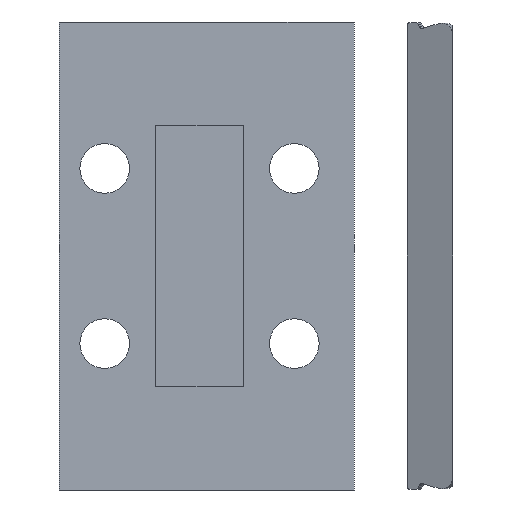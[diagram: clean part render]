
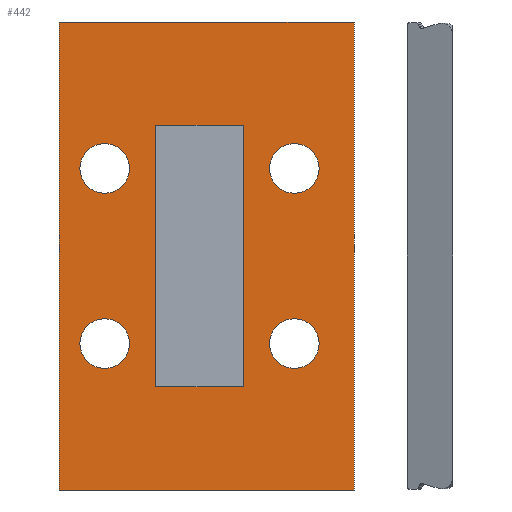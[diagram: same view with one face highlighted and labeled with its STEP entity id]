
A CAD part, front view. The second image highlights one B-rep face of the part: STEP entity #442.
In plain terms, the highlighted planar face has unit normal (0, -1, 0).
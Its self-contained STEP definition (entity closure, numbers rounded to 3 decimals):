
#32 = VERTEX_POINT ( 'NONE', #583 ) ;
#34 = EDGE_CURVE ( 'NONE', #35, #43, #578, .T. ) ;
#35 = VERTEX_POINT ( 'NONE', #573 ) ;
#39 = VERTEX_POINT ( 'NONE', #626 ) ;
#43 = VERTEX_POINT ( 'NONE', #624 ) ;
#47 = VERTEX_POINT ( 'NONE', #619 ) ;
#56 = VERTEX_POINT ( 'NONE', #609 ) ;
#58 = EDGE_CURVE ( 'NONE', #39, #32, #608, .T. ) ;
#60 = EDGE_CURVE ( 'NONE', #47, #56, #603, .T. ) ;
#66 = VERTEX_POINT ( 'NONE', #647 ) ;
#211 = VERTEX_POINT ( 'NONE', #824 ) ;
#213 = VERTEX_POINT ( 'NONE', #884 ) ;
#216 = EDGE_CURVE ( 'NONE', #211, #213, #874, .T. ) ;
#219 = EDGE_CURVE ( 'NONE', #222, #226, #865, .T. ) ;
#222 = VERTEX_POINT ( 'NONE', #855 ) ;
#226 = VERTEX_POINT ( 'NONE', #909 ) ;
#414 = EDGE_CURVE ( 'NONE', #438, #439, #1235, .T. ) ;
#418 = EDGE_CURVE ( 'NONE', #47, #39, #1223, .T. ) ;
#419 = EDGE_CURVE ( 'NONE', #488, #439, #1219, .T. ) ;
#420 = EDGE_CURVE ( 'NONE', #226, #222, #1214, .T. ) ;
#421 = ORIENTED_EDGE ( 'NONE', *, *, #219, .T. ) ;
#422 = EDGE_LOOP ( 'NONE', ( #433, #429 ) ) ;
#423 = EDGE_LOOP ( 'NONE', ( #428, #421 ) ) ;
#424 = ORIENTED_EDGE ( 'NONE', *, *, #498, .T. ) ;
#425 = ORIENTED_EDGE ( 'NONE', *, *, #216, .T. ) ;
#426 = EDGE_CURVE ( 'NONE', #43, #35, #1274, .T. ) ;
#427 = ORIENTED_EDGE ( 'NONE', *, *, #435, .F. ) ;
#428 = ORIENTED_EDGE ( 'NONE', *, *, #420, .T. ) ;
#429 = ORIENTED_EDGE ( 'NONE', *, *, #34, .T. ) ;
#430 = ORIENTED_EDGE ( 'NONE', *, *, #485, .F. ) ;
#431 = ORIENTED_EDGE ( 'NONE', *, *, #414, .T. ) ;
#432 = EDGE_LOOP ( 'NONE', ( #495, #496, #494, #491 ) ) ;
#433 = ORIENTED_EDGE ( 'NONE', *, *, #426, .T. ) ;
#434 = EDGE_LOOP ( 'NONE', ( #430, #427, #431, #499 ) ) ;
#435 = EDGE_CURVE ( 'NONE', #438, #66, #1270, .T. ) ;
#436 = ORIENTED_EDGE ( 'NONE', *, *, #1753, .T. ) ;
#437 = EDGE_CURVE ( 'NONE', #1750, #1751, #1266, .T. ) ;
#438 = VERTEX_POINT ( 'NONE', #1261 ) ;
#439 = VERTEX_POINT ( 'NONE', #1260 ) ;
#442 = ADVANCED_FACE ( 'NONE', ( #1259, #1258, #1257, #1256, #1255, #1254 ), #1253, .F. ) ;
#443 = EDGE_LOOP ( 'NONE', ( #444, #436 ) ) ;
#444 = ORIENTED_EDGE ( 'NONE', *, *, #437, .T. ) ;
#445 = EDGE_LOOP ( 'NONE', ( #424, #425 ) ) ;
#485 = EDGE_CURVE ( 'NONE', #66, #488, #1374, .T. ) ;
#488 = VERTEX_POINT ( 'NONE', #1360 ) ;
#491 = ORIENTED_EDGE ( 'NONE', *, *, #60, .T. ) ;
#494 = ORIENTED_EDGE ( 'NONE', *, *, #418, .F. ) ;
#495 = ORIENTED_EDGE ( 'NONE', *, *, #497, .T. ) ;
#496 = ORIENTED_EDGE ( 'NONE', *, *, #58, .F. ) ;
#497 = EDGE_CURVE ( 'NONE', #56, #32, #1353, .T. ) ;
#498 = EDGE_CURVE ( 'NONE', #213, #211, #1349, .T. ) ;
#499 = ORIENTED_EDGE ( 'NONE', *, *, #419, .F. ) ;
#573 = CARTESIAN_POINT ( 'NONE',  ( -32.5, 8.6, -38.5 ) ) ;
#574 = DIRECTION ( 'NONE',  ( 0., 0., 1. ) ) ;
#575 = DIRECTION ( 'NONE',  ( 0., 1., 0. ) ) ;
#576 = CARTESIAN_POINT ( 'NONE',  ( -32.5, 8.6, -30. ) ) ;
#577 = AXIS2_PLACEMENT_3D ( 'NONE', #576, #575, #574 ) ;
#578 = CIRCLE ( 'NONE', #577, 8.5 ) ;
#583 = CARTESIAN_POINT ( 'NONE',  ( 53., 8.6, -80.2 ) ) ;
#603 = LINE ( 'NONE', #665, #664 ) ;
#605 = DIRECTION ( 'NONE',  ( 0., 0., -1. ) ) ;
#606 = VECTOR ( 'NONE', #605, 1000. ) ;
#607 = CARTESIAN_POINT ( 'NONE',  ( 53., 8.6, 80.2 ) ) ;
#608 = LINE ( 'NONE', #607, #606 ) ;
#609 = CARTESIAN_POINT ( 'NONE',  ( -48., 8.6, -80.2 ) ) ;
#619 = CARTESIAN_POINT ( 'NONE',  ( -48., 8.6, 80.2 ) ) ;
#624 = CARTESIAN_POINT ( 'NONE',  ( -32.5, 8.6, -21.5 ) ) ;
#626 = CARTESIAN_POINT ( 'NONE',  ( 53., 8.6, 80.2 ) ) ;
#647 = CARTESIAN_POINT ( 'NONE',  ( -15., 8.6, 44.75 ) ) ;
#663 = DIRECTION ( 'NONE',  ( 0., 0., -1. ) ) ;
#664 = VECTOR ( 'NONE', #663, 1000. ) ;
#665 = CARTESIAN_POINT ( 'NONE',  ( -48., 8.6, 80.2 ) ) ;
#824 = CARTESIAN_POINT ( 'NONE',  ( -32.5, 8.6, 21.5 ) ) ;
#855 = CARTESIAN_POINT ( 'NONE',  ( 32.5, 8.6, -38.5 ) ) ;
#861 = DIRECTION ( 'NONE',  ( 0., 0., 1. ) ) ;
#862 = DIRECTION ( 'NONE',  ( 0., 1., 0. ) ) ;
#863 = CARTESIAN_POINT ( 'NONE',  ( 32.5, 8.6, -30. ) ) ;
#864 = AXIS2_PLACEMENT_3D ( 'NONE', #863, #862, #861 ) ;
#865 = CIRCLE ( 'NONE', #864, 8.5 ) ;
#870 = DIRECTION ( 'NONE',  ( 0., 0., 1. ) ) ;
#871 = DIRECTION ( 'NONE',  ( 0., 1., 0. ) ) ;
#872 = CARTESIAN_POINT ( 'NONE',  ( -32.5, 8.6, 30. ) ) ;
#873 = AXIS2_PLACEMENT_3D ( 'NONE', #872, #871, #870 ) ;
#874 = CIRCLE ( 'NONE', #873, 8.5 ) ;
#884 = CARTESIAN_POINT ( 'NONE',  ( -32.5, 8.6, 38.5 ) ) ;
#909 = CARTESIAN_POINT ( 'NONE',  ( 32.5, 8.6, -21.5 ) ) ;
#1212 = CARTESIAN_POINT ( 'NONE',  ( 32.5, 8.6, -30. ) ) ;
#1213 = AXIS2_PLACEMENT_3D ( 'NONE', #1212, #1276, #1275 ) ;
#1214 = CIRCLE ( 'NONE', #1213, 8.5 ) ;
#1215 = CARTESIAN_POINT ( 'NONE',  ( -32.5, 8.6, -30. ) ) ;
#1216 = DIRECTION ( 'NONE',  ( 1., 0., 0. ) ) ;
#1217 = VECTOR ( 'NONE', #1216, 1000. ) ;
#1218 = CARTESIAN_POINT ( 'NONE',  ( -48., 8.6, -44.75 ) ) ;
#1219 = LINE ( 'NONE', #1218, #1217 ) ;
#1220 = DIRECTION ( 'NONE',  ( 1., 0., 0. ) ) ;
#1221 = VECTOR ( 'NONE', #1220, 1000. ) ;
#1222 = CARTESIAN_POINT ( 'NONE',  ( -48., 8.6, 80.2 ) ) ;
#1223 = LINE ( 'NONE', #1222, #1221 ) ;
#1232 = DIRECTION ( 'NONE',  ( 0., 0., -1. ) ) ;
#1233 = VECTOR ( 'NONE', #1232, 1000. ) ;
#1234 = CARTESIAN_POINT ( 'NONE',  ( 15., 8.6, 80.2 ) ) ;
#1235 = LINE ( 'NONE', #1234, #1233 ) ;
#1249 = DIRECTION ( 'NONE',  ( 0., 0., 1. ) ) ;
#1250 = DIRECTION ( 'NONE',  ( 0., 1., 0. ) ) ;
#1251 = CARTESIAN_POINT ( 'NONE',  ( 15., 8.6, 80.2 ) ) ;
#1252 = AXIS2_PLACEMENT_3D ( 'NONE', #1251, #1250, #1249 ) ;
#1253 = PLANE ( 'NONE',  #1252 ) ;
#1254 = FACE_OUTER_BOUND ( 'NONE', #432, .T. ) ;
#1255 = FACE_BOUND ( 'NONE', #434, .T. ) ;
#1256 = FACE_BOUND ( 'NONE', #422, .T. ) ;
#1257 = FACE_BOUND ( 'NONE', #423, .T. ) ;
#1258 = FACE_BOUND ( 'NONE', #445, .T. ) ;
#1259 = FACE_BOUND ( 'NONE', #443, .T. ) ;
#1260 = CARTESIAN_POINT ( 'NONE',  ( 15., 8.6, -44.75 ) ) ;
#1261 = CARTESIAN_POINT ( 'NONE',  ( 15., 8.6, 44.75 ) ) ;
#1262 = DIRECTION ( 'NONE',  ( 0., 0., 1. ) ) ;
#1263 = DIRECTION ( 'NONE',  ( 0., 1., 0. ) ) ;
#1264 = CARTESIAN_POINT ( 'NONE',  ( 32.5, 8.6, 30. ) ) ;
#1265 = AXIS2_PLACEMENT_3D ( 'NONE', #1264, #1263, #1262 ) ;
#1266 = CIRCLE ( 'NONE', #1265, 8.5 ) ;
#1267 = DIRECTION ( 'NONE',  ( -1., 0., 0. ) ) ;
#1268 = VECTOR ( 'NONE', #1267, 1000. ) ;
#1269 = CARTESIAN_POINT ( 'NONE',  ( -48., 8.6, 44.75 ) ) ;
#1270 = LINE ( 'NONE', #1269, #1268 ) ;
#1271 = DIRECTION ( 'NONE',  ( 0., 0., 1. ) ) ;
#1272 = DIRECTION ( 'NONE',  ( 0., 1., 0. ) ) ;
#1273 = AXIS2_PLACEMENT_3D ( 'NONE', #1215, #1272, #1271 ) ;
#1274 = CIRCLE ( 'NONE', #1273, 8.5 ) ;
#1275 = DIRECTION ( 'NONE',  ( 0., 0., 1. ) ) ;
#1276 = DIRECTION ( 'NONE',  ( 0., 1., 0. ) ) ;
#1345 = DIRECTION ( 'NONE',  ( 0., 0., 1. ) ) ;
#1346 = DIRECTION ( 'NONE',  ( 0., 1., 0. ) ) ;
#1347 = CARTESIAN_POINT ( 'NONE',  ( -32.5, 8.6, 30. ) ) ;
#1348 = AXIS2_PLACEMENT_3D ( 'NONE', #1347, #1346, #1345 ) ;
#1349 = CIRCLE ( 'NONE', #1348, 8.5 ) ;
#1350 = DIRECTION ( 'NONE',  ( 1., 0., 0. ) ) ;
#1351 = VECTOR ( 'NONE', #1350, 1000. ) ;
#1352 = CARTESIAN_POINT ( 'NONE',  ( 15., 8.6, -80.2 ) ) ;
#1353 = LINE ( 'NONE', #1352, #1351 ) ;
#1360 = CARTESIAN_POINT ( 'NONE',  ( -15., 8.6, -44.75 ) ) ;
#1371 = DIRECTION ( 'NONE',  ( 0., 0., -1. ) ) ;
#1372 = VECTOR ( 'NONE', #1371, 1000. ) ;
#1373 = CARTESIAN_POINT ( 'NONE',  ( -15., 8.6, 80.2 ) ) ;
#1374 = LINE ( 'NONE', #1373, #1372 ) ;
#1514 = DIRECTION ( 'NONE',  ( 0., 0., 1. ) ) ;
#1515 = DIRECTION ( 'NONE',  ( 0., 1., 0. ) ) ;
#1516 = CARTESIAN_POINT ( 'NONE',  ( 32.5, 8.6, 30. ) ) ;
#1517 = AXIS2_PLACEMENT_3D ( 'NONE', #1516, #1515, #1514 ) ;
#1518 = CIRCLE ( 'NONE', #1517, 8.5 ) ;
#1519 = CARTESIAN_POINT ( 'NONE',  ( 32.5, 8.6, 21.5 ) ) ;
#1520 = CARTESIAN_POINT ( 'NONE',  ( 32.5, 8.6, 38.5 ) ) ;
#1750 = VERTEX_POINT ( 'NONE', #1520 ) ;
#1751 = VERTEX_POINT ( 'NONE', #1519 ) ;
#1753 = EDGE_CURVE ( 'NONE', #1751, #1750, #1518, .T. ) ;
